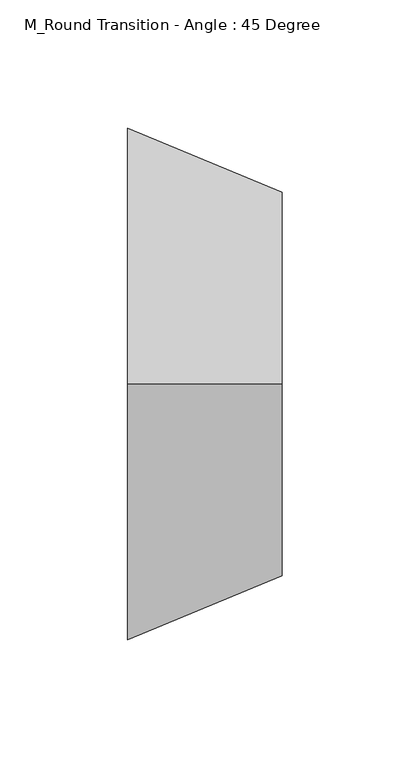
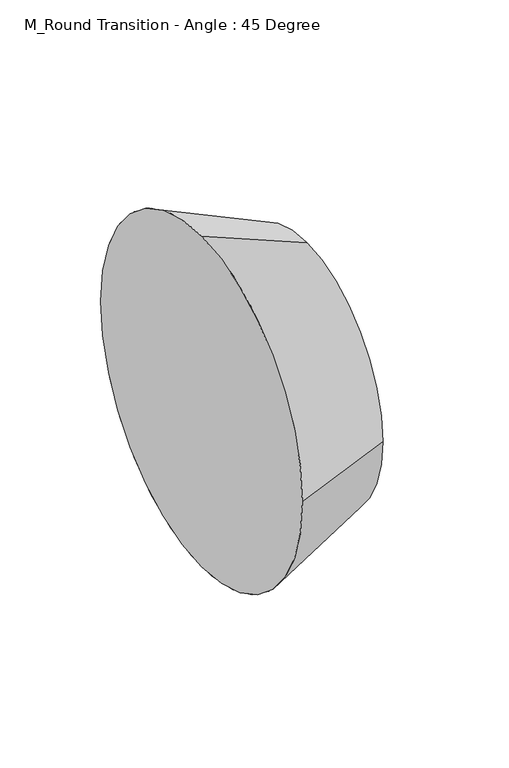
"""IFC4 building model written with IfcOpenShell, lengths in millimetres: duct fitting geometry, M_Round Transition - Angle : 45 Degree."""

from ifc_helpers import new_model, si_unit, frame, origin, place, context, project, spatial, polyline, circle_curve, source, transform, mapped, element, save
from ifc_brep_helpers import plane_surface, revolved_surface, advanced_brep


def m_round_transition_angle_45_degree_6d7b59ce(model_context):
    return source(origin(), model_context, "Body", "AdvancedBrep", [
        advanced_brep(
        [(60.3553391, -75.0, 0.0), (60.3553391, 0.0, -75.0), (60.3553391, 75.0, 0.0), (60.3553391, 0.0, 75.0), (0.0, -100.0, 0.0), (0.0, 0.0, 100.0), (0.0, 100.0, 0.0), (0.0, 0.0, -100.0)],
        [
            (0, 1, circle_curve(frame((60.3553391, 0.0, 0.0), z_axis=(1.0, 0.0, 0.0), x_axis=(0.0, -1.0, 0.0)), 75.0)),
            (1, 2, circle_curve(frame((60.3553391, 0.0, 0.0), z_axis=(1.0, 0.0, 0.0), x_axis=(0.0, 0.0, -1.0)), 75.0)),
            (2, 3, circle_curve(frame((60.3553391, 0.0, 0.0), z_axis=(1.0, 0.0, 0.0), x_axis=(0.0, 1.0, 0.0)), 75.0)),
            (3, 0, circle_curve(frame((60.3553391, 0.0, 0.0), z_axis=(1.0, 0.0, 0.0), x_axis=(0.0, 0.0, 1.0)), 75.0)),
            (4, 5, circle_curve(frame((0.0, 0.0, 0.0), z_axis=(-1.0, 0.0, 0.0), x_axis=(0.0, 0.0, 1.0)), 100.0)),
            (5, 6, circle_curve(frame((0.0, 0.0, 0.0), z_axis=(-1.0, 0.0, 0.0), x_axis=(0.0, 1.0, 0.0)), 100.0)),
            (6, 7, circle_curve(frame((0.0, 0.0, 0.0), z_axis=(-1.0, 0.0, 0.0), x_axis=(0.0, 0.0, -1.0)), 100.0)),
            (7, 4, circle_curve(frame((0.0, 0.0, 0.0), z_axis=(-1.0, 0.0, 0.0), x_axis=(0.0, -1.0, 0.0)), 100.0)),
            (7, 1),
            (0, 4),
            (6, 2),
            (5, 3),
        ],
        [
            plane_surface(frame((60.3553391, 0.0, 0.0), z_axis=(1.0, 0.0, 0.0), x_axis=(0.0, 0.0, -1.0))),
            plane_surface(frame((0.0, 0.0, 0.0), z_axis=(-1.0, 0.0, 0.0), x_axis=(0.0, 0.0, -1.0))),
            revolved_surface(polyline([(60.35533910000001, -74.99999997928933, 0.0), (0.0, -100.0, 0.0)]), (241.4213562, 0.0, 0.0), (-1.0, 0.0, 0.0)),
            revolved_surface(polyline([(60.35533910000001, 0.0, -74.99999997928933), (0.0, 0.0, -100.0)]), (241.4213562, 0.0, 0.0), (-1.0, 0.0, 0.0)),
            revolved_surface(polyline([(60.35533910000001, 74.99999997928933, 0.0), (0.0, 100.0, 0.0)]), (241.4213562, 0.0, 0.0), (-1.0, 0.0, 0.0)),
            revolved_surface(polyline([(60.35533910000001, 0.0, 74.99999997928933), (0.0, 0.0, 100.0)]), (241.4213562, 0.0, 0.0), (-1.0, 0.0, 0.0)),
        ],
        [
            (0, [[1, 2, 3, 4]]),
            (1, [[5, 6, 7, 8]]),
            (2, [[-8, 9, -1, 10]]),
            (3, [[-7, 11, -2, -9]]),
            (4, [[-6, 12, -3, -11]]),
            (5, [[-5, -10, -4, -12]]),
        ],
    ),
        advanced_brep(
        [(0.0, -100.0, 0.0), (0.0, 0.0, 100.0), (0.0, 100.0, 0.0), (0.0, 0.0, -100.0), (60.3553391, -75.0, 0.0), (60.3553391, 0.0, -75.0), (60.3553391, 75.0, 0.0), (60.3553391, 0.0, 75.0)],
        [
            (0, 1, circle_curve(frame((0.0, 0.0, 0.0), z_axis=(-1.0, 0.0, 0.0), x_axis=(0.0, -1.0, 0.0)), 100.0)),
            (1, 2, circle_curve(frame((0.0, 0.0, 0.0), z_axis=(-1.0, 0.0, 0.0), x_axis=(0.0, 0.0, 1.0)), 100.0)),
            (2, 3, circle_curve(frame((0.0, 0.0, 0.0), z_axis=(-1.0, 0.0, 0.0), x_axis=(0.0, 1.0, 0.0)), 100.0)),
            (3, 0, circle_curve(frame((0.0, 0.0, 0.0), z_axis=(-1.0, 0.0, 0.0), x_axis=(0.0, 0.0, -1.0)), 100.0)),
            (4, 5, circle_curve(frame((60.3553391, 0.0, 0.0), z_axis=(1.0, 0.0, 0.0), x_axis=(0.0, 0.0, -1.0)), 75.0)),
            (5, 6, circle_curve(frame((60.3553391, 0.0, 0.0), z_axis=(1.0, 0.0, 0.0), x_axis=(0.0, 1.0, 0.0)), 75.0)),
            (6, 7, circle_curve(frame((60.3553391, 0.0, 0.0), z_axis=(1.0, 0.0, 0.0), x_axis=(0.0, 0.0, 1.0)), 75.0)),
            (7, 4, circle_curve(frame((60.3553391, 0.0, 0.0), z_axis=(1.0, 0.0, 0.0), x_axis=(0.0, -1.0, 0.0)), 75.0)),
            (7, 1),
            (0, 4),
            (6, 2),
            (5, 3),
        ],
        [
            plane_surface(frame((0.0, 0.0, 0.0), z_axis=(-1.0, 0.0, 0.0), x_axis=(0.0, 0.0, -1.0))),
            plane_surface(frame((60.3553391, 0.0, 0.0), z_axis=(1.0, 0.0, 0.0), x_axis=(0.0, 0.0, -1.0))),
            revolved_surface(polyline([(60.35533910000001, 0.0, 74.99999997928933), (0.0, 0.0, 100.0)]), (241.4213562, 0.0, 0.0), (-1.0, 0.0, 0.0)),
            revolved_surface(polyline([(60.35533910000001, 74.99999997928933, 0.0), (0.0, 100.0, 0.0)]), (241.4213562, 0.0, 0.0), (-1.0, 0.0, 0.0)),
            revolved_surface(polyline([(60.35533910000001, 0.0, -74.99999997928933), (0.0, 0.0, -100.0)]), (241.4213562, 0.0, 0.0), (-1.0, 0.0, 0.0)),
            revolved_surface(polyline([(60.35533910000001, -74.99999997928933, 0.0), (0.0, -100.0, 0.0)]), (241.4213562, 0.0, 0.0), (-1.0, 0.0, 0.0)),
        ],
        [
            (0, [[1, 2, 3, 4]]),
            (1, [[5, 6, 7, 8]]),
            (2, [[-8, 9, -1, 10]]),
            (3, [[-7, 11, -2, -9]]),
            (4, [[-6, 12, -3, -11]]),
            (5, [[-5, -10, -4, -12]]),
        ],
    ),
        advanced_brep(
        [(60.3553391, -75.0, 0.0), (60.3553391, 75.0, 0.0), (0.0, -100.0, 0.0), (0.0, 100.0, 0.0)],
        [
            (0, 1, circle_curve(frame((60.3553391, 0.0, 0.0), z_axis=(1.0, 0.0, 0.0), x_axis=(0.0, -1.0, 0.0)), 75.0)),
            (1, 0, circle_curve(frame((60.3553391, 0.0, 0.0), z_axis=(1.0, 0.0, 0.0), x_axis=(0.0, 1.0, 0.0)), 75.0)),
            (2, 3, circle_curve(frame((0.0, 0.0, 0.0), z_axis=(-1.0, 0.0, 0.0), x_axis=(0.0, 1.0, 0.0)), 100.0)),
            (3, 2, circle_curve(frame((0.0, 0.0, 0.0), z_axis=(-1.0, 0.0, 0.0), x_axis=(0.0, -1.0, 0.0)), 100.0)),
            (3, 1),
            (0, 2),
        ],
        [
            plane_surface(frame((60.3553391, 0.0, 0.0), z_axis=(1.0, 0.0, 0.0), x_axis=(0.0, 0.0, -1.0))),
            plane_surface(frame((0.0, 0.0, 0.0), z_axis=(-1.0, 0.0, 0.0), x_axis=(0.0, 0.0, -1.0))),
            revolved_surface(polyline([(60.35533910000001, -74.99999997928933, 0.0), (0.0, -100.0, 0.0)]), (241.4213562, 0.0, 0.0), (-1.0, 0.0, 0.0)),
            revolved_surface(polyline([(60.35533910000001, 74.99999997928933, 0.0), (0.0, 100.0, 0.0)]), (241.4213562, 0.0, 0.0), (-1.0, 0.0, 0.0)),
        ],
        [
            (0, [[1, 2]]),
            (1, [[3, 4]]),
            (2, [[-4, 5, -1, 6]]),
            (3, [[-3, -6, -2, -5]]),
        ],
    ),
    ])


if __name__ == "__main__":
    model = new_model("IFC4")
    model_context = context("Model", 3, world=origin())
    ifc_project = project(units=[si_unit("LENGTHUNIT", "METRE", prefix="MILLI")], contexts=[model_context])
    site = spatial("IfcSite", under=ifc_project)
    building = spatial("IfcBuilding", under=site)
    placement = place(None, origin())
    m_round_transition_angle_45_degree_shape = m_round_transition_angle_45_degree_6d7b59ce(model_context)
    element("IfcDuctFitting", 1, ObjectType="M_Round Transition - Angle : 45 Degree", at=placement, inside=building, context=model_context, shape_type="MappedRepresentation", body=[
        mapped(m_round_transition_angle_45_degree_shape, transform((0.0, 0.0, 0.0), x_axis=(1.0, 0.0, 0.0), y_axis=(0.0, 1.0, 0.0), z_axis=(0.0, 0.0, 1.0))),
    ])
    save(model, "model.ifc")
